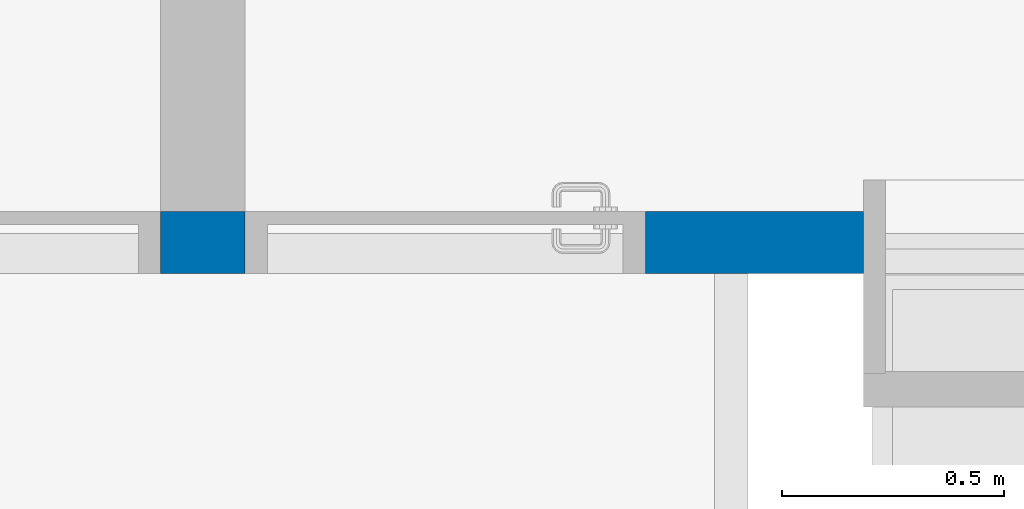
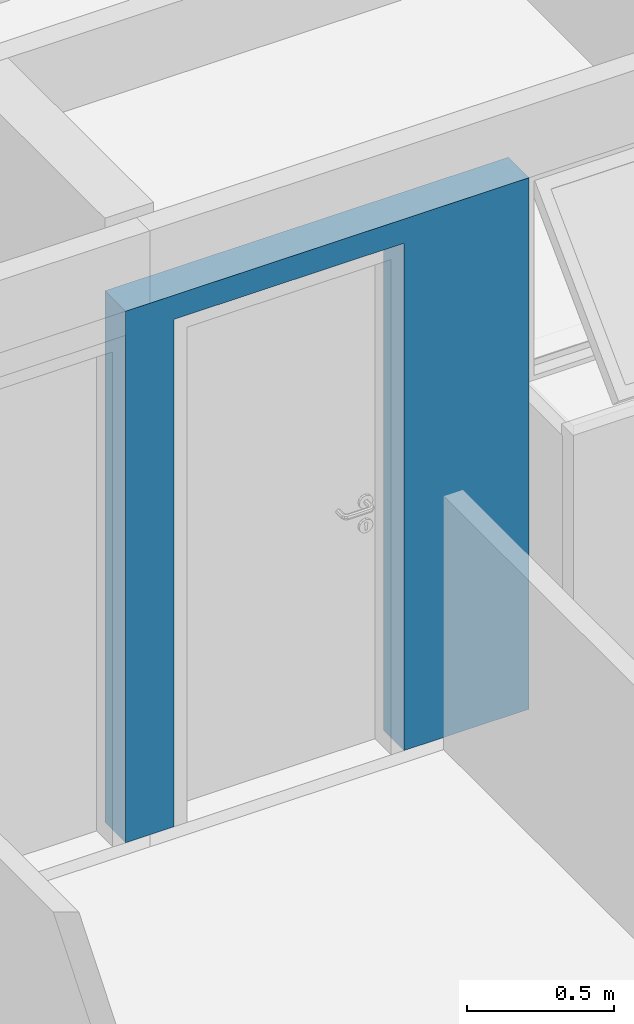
# One storey, part 36 of 41: 1 wall, 1 opening.
"""IFC4 building model written with IfcOpenShell, lengths in millimetres."""

from ifc_helpers import new_model, entity, si_unit, converted_unit, derived_unit, direction, frame, origin_with_axes, origin_2d_with_axis, place, context, subcontext, project, spatial, line, indexed_curve, rectangle, outline, extrude, material, layer, layer_set, layer_usage, type_object, element, save


model = new_model("IFC4")

# Units and contexts
model_context = context("Model", 3, precision=0.01, world=origin_with_axes(), true_north=direction((0.0, 1.0)))
body_context = subcontext(model_context, "Body", "Model", "MODEL_VIEW")
ifc_project = project(units=[si_unit("LENGTHUNIT", "METRE", prefix="MILLI"), si_unit("AREAUNIT", "SQUARE_METRE"), si_unit("VOLUMEUNIT", "CUBIC_METRE"), converted_unit("PLANEANGLEUNIT", "DEGREE", entity("IfcPlaneAngleMeasure", 0.0174532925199), si_unit("PLANEANGLEUNIT", "RADIAN"), dimensions=[0, 0, 0, 0, 0, 0, 0]), converted_unit("TIMEUNIT", "Year", entity("IfcTimeMeasure", 31556926.0), si_unit("TIMEUNIT", "SECOND"), dimensions=[0, 0, 1, 0, 0, 0, 0]), si_unit("MASSUNIT", "GRAM", prefix="KILO"), si_unit("THERMODYNAMICTEMPERATUREUNIT", "DEGREE_CELSIUS"), si_unit("LUMINOUSINTENSITYUNIT", "LUMEN"), si_unit("ENERGYUNIT", "JOULE", prefix="MEGA"), derived_unit("THERMALCONDUCTANCEUNIT", [(si_unit("POWERUNIT", "WATT"), 1), (si_unit("LENGTHUNIT", "METRE"), -1), (si_unit("THERMODYNAMICTEMPERATUREUNIT", "KELVIN"), -1)]), derived_unit("SPECIFICHEATCAPACITYUNIT", [(si_unit("ENERGYUNIT", "JOULE"), 1), (si_unit("MASSUNIT", "GRAM", prefix="KILO"), -1), (si_unit("THERMODYNAMICTEMPERATUREUNIT", "KELVIN"), -1)]), derived_unit("MASSDENSITYUNIT", [(si_unit("MASSUNIT", "GRAM", prefix="KILO"), 1), (si_unit("VOLUMEUNIT", "CUBIC_METRE"), -1)])], contexts=[model_context])

# Site, building, storey
site_placement = place(None, origin_with_axes())
site = spatial("IfcSite", under=ifc_project, at=site_placement, Name="Local", CompositionType="ELEMENT")
building_placement = place(site_placement, origin_with_axes())
building = spatial("IfcBuilding", under=site, at=building_placement, Name="Construção", CompositionType="ELEMENT")
storey_placement = place(building_placement, frame((0.0, 0.0, 2650.0), z_axis=(0.0, 0.0, 1.0), x_axis=(1.0, 0.0, 0.0)))
storey = spatial("IfcBuildingStorey", under=building, at=storey_placement, Name="Segundo Pavimento", CompositionType="ELEMENT", Elevation=2650.0)

# Wall, opening
ifc_material = material(Name="GENÉRICO - VEDAÇÃO EXTERNA")
ifc_layer = layer(ifc_material, 140.0, ventilated="UNKNOWN", Name="GENÉRICO - VEDAÇÃO EXTERNA")
ifc_layer_set = layer_set([ifc_layer], Name="GENÉRICO - VEDAÇÃO EXTERNA 140")
ifc_layer_usage = layer_usage(ifc_layer_set, "AXIS2", "NEGATIVE", 0.0)
wall_type = type_object("IfcWallType", Name="GENÉRICO - VEDAÇÃO EXTERNA 140", PredefinedType="NOTDEFINED")
wall_placement = place(storey_placement, frame((7290.0, 18035.0, 0.0), z_axis=(0.0, 0.0, 1.0), x_axis=(1.0, 0.0, 0.0)))
wall = element("IfcWall", 1, at=wall_placement, inside=storey, type_object=wall_type, material=ifc_layer_usage, Name="APTO8-PAREDE-004", PredefinedType="NOTDEFINED", context=body_context, shape_type="SweptSolid", body=[
    extrude(outline(indexed_curve([(0.0, -140.0), (1580.0, -140.0), (1580.0, 0.0), (0.0, 0.0)], segments=[line(1, 2, 3, 4, 1)])), origin_with_axes(), (0.0, 0.0, 1.0), 2200.0),
])
opening_placement = place(wall_placement, frame((640.0, 0.0, 0.0), z_axis=(0.0, 0.0, 1.0), x_axis=(1.0, 0.0, 0.0)))
element("IfcOpeningElement", 2, at=opening_placement, cuts=wall, Name="APTO8-PORTA-004", context=body_context, shape_type="SweptSolid", body=[
    extrude(rectangle(XDim=900.0, YDim=2100.0, at=origin_2d_with_axis()), frame((0.0, 140.0, 1050.0), z_axis=(0.0, 1.0, 0.0), x_axis=(-1.0, 0.0, 0.0)), (0.0, 0.0, -1.0), 420.0),
])

save(model, "model.ifc")
